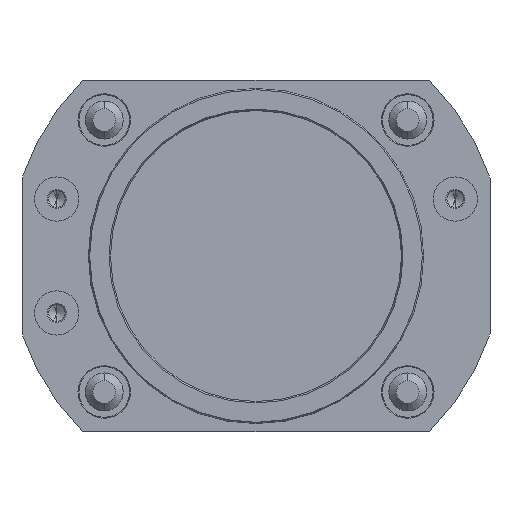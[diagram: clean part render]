
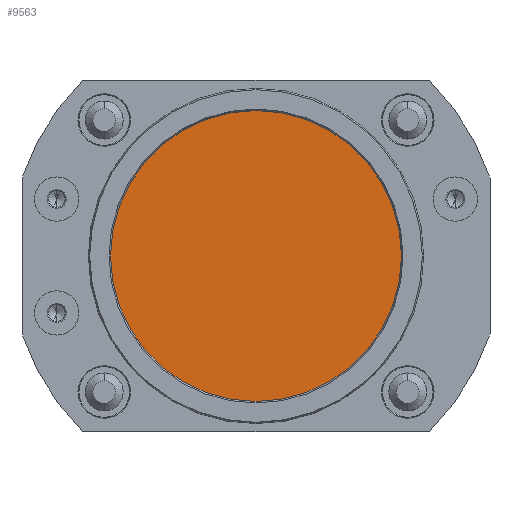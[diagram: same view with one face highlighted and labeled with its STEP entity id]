
A CAD part, front view. The second image highlights one B-rep face of the part: STEP entity #9563.
In plain terms, the highlighted planar face has unit normal (0, -1, 0).
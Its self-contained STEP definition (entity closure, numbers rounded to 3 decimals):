
#3087 = DIRECTION ( 'NONE',  ( 0., 0., 1. ) ) ;
#3088 = DIRECTION ( 'NONE',  ( 0., 1., 0. ) ) ;
#3089 = CARTESIAN_POINT ( 'NONE',  ( 0., 3., 0. ) ) ;
#3090 = AXIS2_PLACEMENT_3D ( 'NONE', #3089, #3088, #3087 ) ;
#3091 = CIRCLE ( 'NONE', #3090, 23. ) ;
#3095 = CARTESIAN_POINT ( 'NONE',  ( 0., 3., -23. ) ) ;
#3329 = AXIS2_PLACEMENT_3D ( 'NONE', #3335, #3334, #3393 ) ;
#3333 = FACE_OUTER_BOUND ( 'NONE', #7564, .T. ) ;
#3334 = DIRECTION ( 'NONE',  ( 0., -1., 0. ) ) ;
#3335 = CARTESIAN_POINT ( 'NONE',  ( 0., 3., 0. ) ) ;
#3336 = CIRCLE ( 'NONE', #3391, 23. ) ;
#3341 = PLANE ( 'NONE',  #3329 ) ;
#3388 = DIRECTION ( 'NONE',  ( 0., 0., 1. ) ) ;
#3389 = DIRECTION ( 'NONE',  ( 0., 1., 0. ) ) ;
#3390 = CARTESIAN_POINT ( 'NONE',  ( 0., 3., 0. ) ) ;
#3391 = AXIS2_PLACEMENT_3D ( 'NONE', #3390, #3389, #3388 ) ;
#3393 = DIRECTION ( 'NONE',  ( 0., 0., -1. ) ) ;
#3471 = CARTESIAN_POINT ( 'NONE',  ( 0., 3., 23. ) ) ;
#7564 = EDGE_LOOP ( 'NONE', ( #9570, #9574 ) ) ;
#9429 = VERTEX_POINT ( 'NONE', #3095 ) ;
#9430 = EDGE_CURVE ( 'NONE', #9429, #9644, #3091, .T. ) ;
#9563 = ADVANCED_FACE ( 'NONE', ( #3333 ), #3341, .T. ) ;
#9569 = EDGE_CURVE ( 'NONE', #9644, #9429, #3336, .T. ) ;
#9570 = ORIENTED_EDGE ( 'NONE', *, *, #9569, .F. ) ;
#9574 = ORIENTED_EDGE ( 'NONE', *, *, #9430, .F. ) ;
#9644 = VERTEX_POINT ( 'NONE', #3471 ) ;
